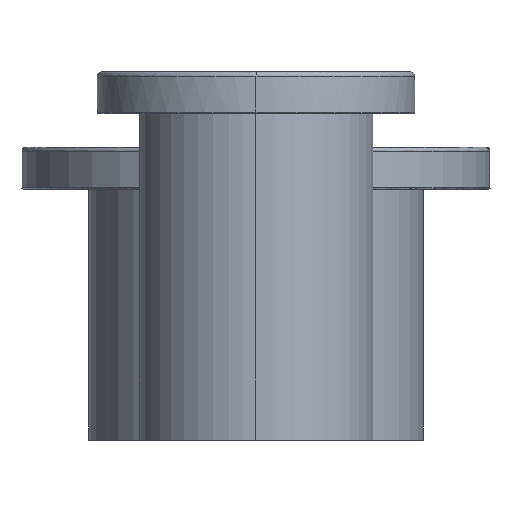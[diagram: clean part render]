
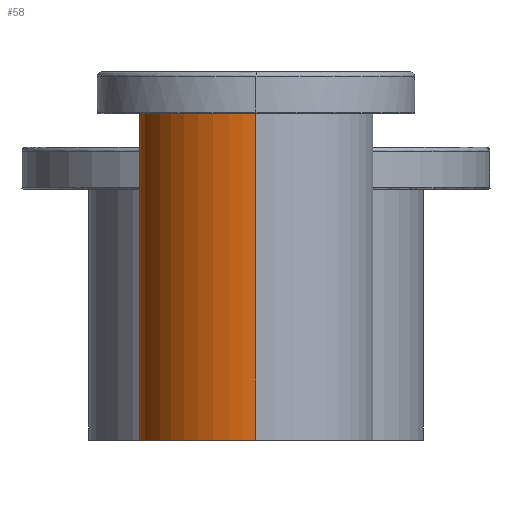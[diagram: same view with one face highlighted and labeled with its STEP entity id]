
A CAD part, left-side view. The second image highlights one B-rep face of the part: STEP entity #58.
In plain terms, the highlighted free-form (B-spline) face has degree [2, 1] with [5, 2] control points.
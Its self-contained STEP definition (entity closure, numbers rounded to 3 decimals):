
#58=ADVANCED_FACE('',(#90),#428,.T.);
#90=FACE_OUTER_BOUND('',#122,.T.);
#122=EDGE_LOOP('',(#221,#222,#223,#224));
#221=ORIENTED_EDGE('',*,*,#304,.T.);
#222=ORIENTED_EDGE('',*,*,#298,.F.);
#223=ORIENTED_EDGE('',*,*,#297,.F.);
#224=ORIENTED_EDGE('',*,*,#296,.T.);
#296=EDGE_CURVE('',#401,#405,#362,.T.);
#297=EDGE_CURVE('',#401,#402,#363,.T.);
#298=EDGE_CURVE('',#402,#406,#364,.T.);
#304=EDGE_CURVE('',#405,#406,#370,.T.);
#362=(
BOUNDED_CURVE()
B_SPLINE_CURVE(2,(#1987,#1988,#1989,#1990,#1991),.UNSPECIFIED.,.F.,.F.)
B_SPLINE_CURVE_WITH_KNOTS((3,2,3),(0.,219.911,439.823),
 .UNSPECIFIED.)
CURVE()
GEOMETRIC_REPRESENTATION_ITEM()
RATIONAL_B_SPLINE_CURVE((1.,0.707,1.,0.707,1.))
REPRESENTATION_ITEM('')
);
#363=(
BOUNDED_CURVE()
B_SPLINE_CURVE(1,(#1992,#1993),.UNSPECIFIED.,.F.,.F.)
B_SPLINE_CURVE_WITH_KNOTS((2,2),(0.,390.),.UNSPECIFIED.)
CURVE()
GEOMETRIC_REPRESENTATION_ITEM()
RATIONAL_B_SPLINE_CURVE((1.,1.))
REPRESENTATION_ITEM('')
);
#364=(
BOUNDED_CURVE()
B_SPLINE_CURVE(2,(#1994,#1995,#1996,#1997,#1998),.UNSPECIFIED.,.F.,.F.)
B_SPLINE_CURVE_WITH_KNOTS((3,2,3),(0.,219.911,439.823),
 .UNSPECIFIED.)
CURVE()
GEOMETRIC_REPRESENTATION_ITEM()
RATIONAL_B_SPLINE_CURVE((1.,0.707,1.,0.707,1.))
REPRESENTATION_ITEM('')
);
#370=(
BOUNDED_CURVE()
B_SPLINE_CURVE(1,(#2015,#2016),.UNSPECIFIED.,.F.,.F.)
B_SPLINE_CURVE_WITH_KNOTS((2,2),(0.,390.),.UNSPECIFIED.)
CURVE()
GEOMETRIC_REPRESENTATION_ITEM()
RATIONAL_B_SPLINE_CURVE((1.,1.))
REPRESENTATION_ITEM('')
);
#401=VERTEX_POINT('',#1969);
#402=VERTEX_POINT('',#1970);
#405=VERTEX_POINT('',#1973);
#406=VERTEX_POINT('',#1974);
#428=(
BOUNDED_SURFACE()
B_SPLINE_SURFACE(2,1,((#1897,#1898),(#1899,#1900),(#1901,#1902),(#1903,
#1904),(#1905,#1906)),.UNSPECIFIED.,.F.,.F.,.F.)
B_SPLINE_SURFACE_WITH_KNOTS((3,2,3),(2,2),(0.,219.911,439.823),
(0.,390.),.UNSPECIFIED.)
GEOMETRIC_REPRESENTATION_ITEM()
RATIONAL_B_SPLINE_SURFACE(((1.,1.),(0.707,0.707),
(1.,1.),(0.707,0.707),(1.,1.)))
REPRESENTATION_ITEM('')
SURFACE()
);
#1897=CARTESIAN_POINT('',(140.,0.,0.));
#1898=CARTESIAN_POINT('',(140.,0.,390.));
#1899=CARTESIAN_POINT('',(140.,140.,0.));
#1900=CARTESIAN_POINT('',(140.,140.,390.));
#1901=CARTESIAN_POINT('',(0.,140.,0.));
#1902=CARTESIAN_POINT('',(0.,140.,390.));
#1903=CARTESIAN_POINT('',(-140.,140.,0.));
#1904=CARTESIAN_POINT('',(-140.,140.,390.));
#1905=CARTESIAN_POINT('',(-140.,0.,0.));
#1906=CARTESIAN_POINT('',(-140.,0.,390.));
#1969=CARTESIAN_POINT('',(140.,0.,0.));
#1970=CARTESIAN_POINT('',(140.,0.,390.));
#1973=CARTESIAN_POINT('',(-140.,0.,0.));
#1974=CARTESIAN_POINT('',(-140.,0.,390.));
#1987=CARTESIAN_POINT('',(140.,0.,0.));
#1988=CARTESIAN_POINT('',(140.,140.,0.));
#1989=CARTESIAN_POINT('',(0.,140.,0.));
#1990=CARTESIAN_POINT('',(-140.,140.,0.));
#1991=CARTESIAN_POINT('',(-140.,0.,0.));
#1992=CARTESIAN_POINT('',(140.,0.,0.));
#1993=CARTESIAN_POINT('',(140.,0.,390.));
#1994=CARTESIAN_POINT('',(140.,0.,390.));
#1995=CARTESIAN_POINT('',(140.,140.,390.));
#1996=CARTESIAN_POINT('',(0.,140.,390.));
#1997=CARTESIAN_POINT('',(-140.,140.,390.));
#1998=CARTESIAN_POINT('',(-140.,0.,390.));
#2015=CARTESIAN_POINT('',(-140.,0.,0.));
#2016=CARTESIAN_POINT('',(-140.,0.,390.));
